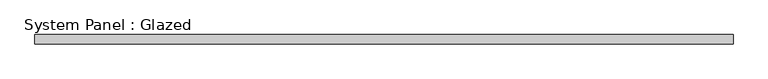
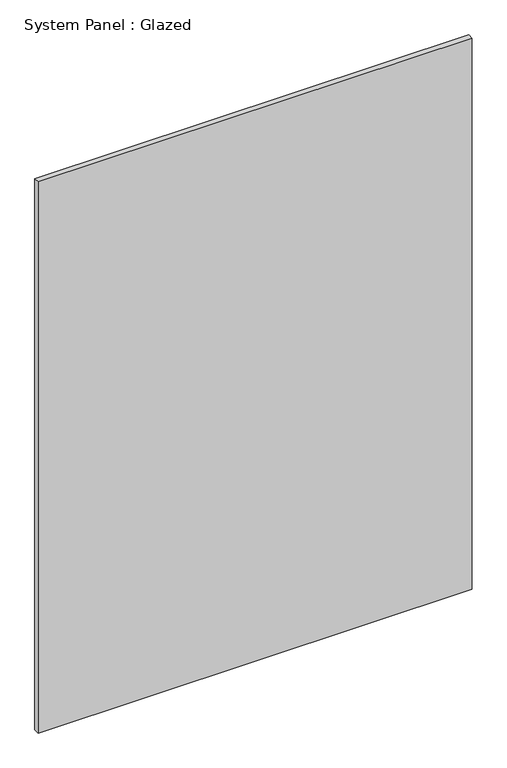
"""IFC4 building model written with IfcOpenShell, lengths in millimetres: plate geometry, System Panel : Glazed."""

from ifc_helpers import new_model, si_unit, origin, origin_with_axes, place, context, project, spatial, polyline, outline, extrude, source, transform, mapped, element, save


def system_panel_glazed_2e5426c8(model_context):
    return source(origin(), model_context, "Body", "SweptSolid", [
        extrude(outline(polyline([(957.4208289, 24.5), (-957.4208289, 24.5), (-957.4208289, 49.5), (957.4208289, 49.5), (957.4208289, 24.5)])), origin_with_axes(), (0.0, 0.0, 1.0), 2570.0),
    ])


if __name__ == "__main__":
    model = new_model("IFC4")
    model_context = context("Model", 3, world=origin())
    ifc_project = project(units=[si_unit("LENGTHUNIT", "METRE", prefix="MILLI")], contexts=[model_context])
    site = spatial("IfcSite", under=ifc_project)
    building = spatial("IfcBuilding", under=site)
    placement = place(None, origin())
    system_panel_glazed_shape = system_panel_glazed_2e5426c8(model_context)
    element("IfcPlate", 1, ObjectType="System Panel : Glazed", at=placement, inside=building, context=model_context, shape_type="MappedRepresentation", body=[
        mapped(system_panel_glazed_shape, transform((0.0, 0.0, 0.0), x_axis=(1.0, 0.0, 0.0), y_axis=(0.0, 1.0, 0.0), z_axis=(0.0, 0.0, 1.0))),
    ])
    save(model, "model.ifc")
